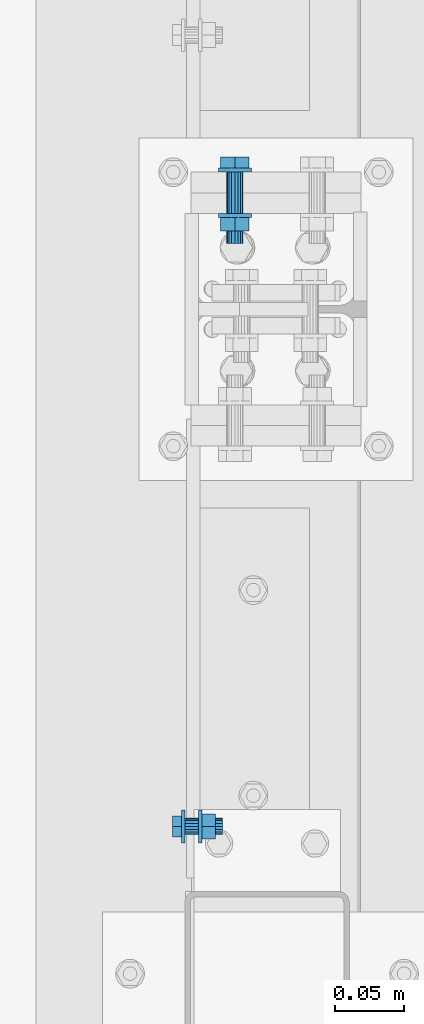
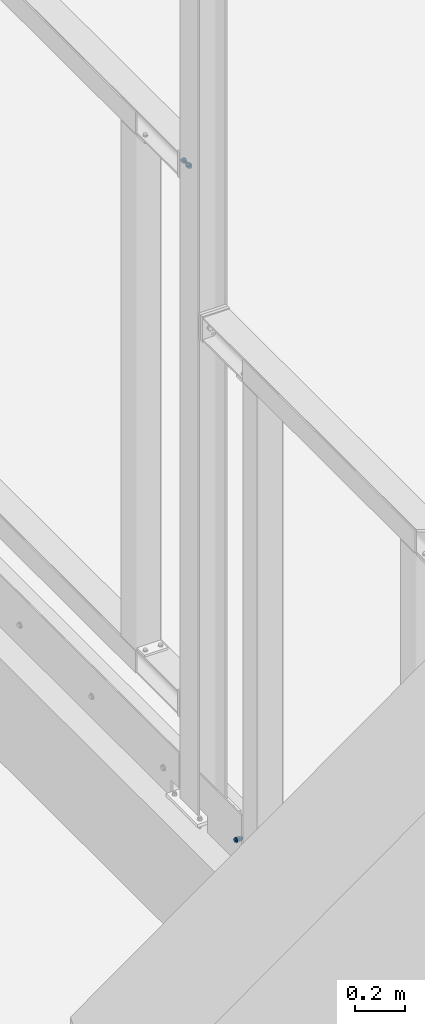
# One storey, part 284 of 476: 2 mechanical fasteners.
"""IFC2X3 building model written with IfcOpenShell, lengths in millimetres."""

import ifcopenshell
import ifcopenshell.guid

model = None  # the IFC model being written
_history = None  # IfcOwnerHistory: only IFC2X3 demands one
_inside = {}  # id of a spatial element -> (the spatial element, [elements in it])
_under = {}  # id of a project, library or spatial element -> (it, [spatial elements below it])
_declared = {}  # id of a project -> (the project, [libraries it declares])
_typed = {}  # id of a type object -> (the type object, [elements of that type])
_made_of = {}  # id of a material, layer set ... -> (it, [elements and type objects made of it])


def new_model(schema):
    """Start an empty IFC model of exactly this schema.

    Asked for "IFC4X3", IfcOpenShell would pick the latest addendum, in which some entities
    have other attributes; the version numbers below select the first issue.
    IFC2X3 requires an IfcOwnerHistory on every rooted entity: one is made here for all.
    """
    global model, _history
    if schema == "IFC4X3":
        model = ifcopenshell.file(schema_version=(4, 3, 0, 0))
    else:
        model = ifcopenshell.file(schema=schema)
    _inside.clear()
    _under.clear()
    _declared.clear()
    _typed.clear()
    _made_of.clear()
    _history = None
    if model.schema == "IFC2X3":
        org = make("IfcOrganization", Name="unknown")
        user = make(
            "IfcPersonAndOrganization",
            ThePerson=make("IfcPerson", FamilyName="unknown"),
            TheOrganization=org,
        )
        app = make(
            "IfcApplication",
            ApplicationDeveloper=org,
            Version="unknown",
            ApplicationFullName="unknown",
            ApplicationIdentifier="unknown",
        )
        _history = make(
            "IfcOwnerHistory",
            OwningUser=user,
            OwningApplication=app,
            ChangeAction="ADDED",
            CreationDate=0,
        )
    return model


def make(cls, **values):
    """One entity of the class cls with the attributes given. An attribute that is None is left unset."""
    return model.create_entity(
        cls, **{name: value for name, value in values.items() if value is not None}
    )


def entity(cls, *values):
    """Any entity or typed value of the class cls, its attributes in the order of the schema. None: left unset."""
    e = model.create_entity(cls)
    for i, value in enumerate(values):
        if value is not None:
            e[i] = value
    return e


def rooted(cls, **values):
    """An entity with a GlobalId (a new one), such as an element, a storey or a relation."""
    return make(cls, GlobalId=ifcopenshell.guid.new(), OwnerHistory=_history, **values)


def si_unit(unit_type, name, prefix=None):
    """IfcSIUnit, for example si_unit("LENGTHUNIT", "METRE", prefix="MILLI")."""
    return make("IfcSIUnit", UnitType=unit_type, Prefix=prefix, Name=name)


def converted_unit(unit_type, name, factor, base, dimensions=None, offset=None):
    """IfcConversionBasedUnit, such as the inch: factor (a typed value) times the base unit."""
    return make(
        "IfcConversionBasedUnit"
        if offset is None
        else "IfcConversionBasedUnitWithOffset",
        ConversionOffset=offset,
        Dimensions=None
        if dimensions is None
        else entity("IfcDimensionalExponents", *dimensions),
        UnitType=unit_type,
        Name=name,
        ConversionFactor=make(
            "IfcMeasureWithUnit", ValueComponent=factor, UnitComponent=base
        ),
    )


def assignment(units):
    """IfcUnitAssignment: the units of a project."""
    return None if units is None else make("IfcUnitAssignment", Units=units)


def point(xyz):
    """IfcCartesianPoint."""
    return None if xyz is None else make("IfcCartesianPoint", Coordinates=xyz)


def direction(xyz):
    """IfcDirection."""
    return None if xyz is None else make("IfcDirection", DirectionRatios=xyz)


def frame(location, z_axis=None, x_axis=None):
    """IfcAxis2Placement3D, a coordinate frame: its origin and axes. An axis left out is left unset."""
    return make(
        "IfcAxis2Placement3D",
        Location=point(location),
        Axis=direction(z_axis),
        RefDirection=direction(x_axis),
    )


def origin_with_axes():
    """The frame at (0, 0, 0) with the z axis (0, 0, 1) and the x axis (1, 0, 0) written out."""
    return frame((0.0, 0.0, 0.0), z_axis=(0.0, 0.0, 1.0), x_axis=(1.0, 0.0, 0.0))


def place(relative_to, where):
    """IfcLocalPlacement: puts the frame where relative to a parent placement (None: the world)."""
    return make(
        "IfcLocalPlacement", PlacementRelTo=relative_to, RelativePlacement=where
    )


def context(
    kind, dimensions, precision=None, world=None, true_north=None, identifier=None
):
    """IfcGeometricRepresentationContext, for example the 3D "Model" context."""
    return make(
        "IfcGeometricRepresentationContext",
        ContextIdentifier=identifier,
        ContextType=kind,
        CoordinateSpaceDimension=dimensions,
        Precision=precision,
        WorldCoordinateSystem=world,
        TrueNorth=true_north,
    )


def project(units=None, contexts=None):
    """IfcProject with its units and contexts."""
    return rooted(
        "IfcProject",
        Name="project",
        RepresentationContexts=contexts,
        UnitsInContext=assignment(units),
    )


def spatial(cls, under=None, at=None, **own):
    """A site, building, storey or space (cls), placed at a placement, below another one or the project."""
    s = rooted(cls, ObjectPlacement=at, **own)
    if under is not None:
        _under.setdefault(under.id(), (under, []))[1].append(s)
    return s


def faces_of(points, faces, orient=None, outer=None):
    """IfcFace entities. A face is a list of loops; a loop is a list of indices into points, from 0.

    orient and outer hold one flag for each loop. By default every Orientation is true, the
    first loop of a face is its IfcFaceOuterBound and the others are IfcFaceBound.
    """
    made = []
    for i, loops in enumerate(faces):
        bounds = []
        for j, loop in enumerate(loops):
            is_outer = j == 0 if outer is None else outer[i][j]
            bounds.append(
                make(
                    "IfcFaceOuterBound" if is_outer else "IfcFaceBound",
                    Bound=make("IfcPolyLoop", Polygon=[points[k] for k in loop]),
                    Orientation=True if orient is None else orient[i][j],
                )
            )
        made.append(make("IfcFace", Bounds=bounds))
    return made


def faceted_brep(points, faces, orient=None, outer=None, voids=None):
    """IfcFacetedBrep: a solid bounded by flat faces; with voids (closed shells), ...WithVoids."""
    shared = [point(p) for p in points]
    hull = make("IfcClosedShell", CfsFaces=faces_of(shared, faces, orient, outer))
    if voids is None:
        return make("IfcFacetedBrep", Outer=hull)
    return make(
        "IfcFacetedBrepWithVoids",
        Outer=hull,
        Voids=[
            make(cls, CfsFaces=faces_of(shared, fs, o, b)) for cls, fs, o, b in voids
        ],
    )


def shape(context_of_items, identifier, shape_type, items):
    """IfcShapeRepresentation: the items that make up one representation, for example the "Body"."""
    return make(
        "IfcShapeRepresentation",
        ContextOfItems=context_of_items,
        RepresentationIdentifier=identifier,
        RepresentationType=shape_type,
        Items=items,
    )


def made_of(thing, what):
    """Note that an element or type object is made of a material, layer set ...; save() writes the relation."""
    if what is not None:
        _made_of.setdefault(what.id(), (what, []))[1].append(thing)
    return thing


def element(
    cls,
    number,
    at=None,
    inside=None,
    cuts=None,
    type_object=None,
    material=None,
    context=None,
    identifier="Body",
    shape_type=None,
    held_by="IfcProductDefinitionShape",
    body=None,
    shapes=None,
    **own,
):
    """One element of the class cls, such as IfcWall. Its Tag is "e" and its number.

    at: its placement. inside: the storey or other place that contains it. cuts: it is an
    opening in that element (IfcRelVoidsElement). A single representation is given by context,
    identifier, shape_type and body (its items); several are given by shapes. held_by: the class
    of the entity that holds the representations. save() writes the other relations.
    """
    e = rooted(cls, Tag="e%d" % number, ObjectPlacement=at, **own)
    if body is not None:
        shapes = [shape(context, identifier, shape_type, body)]
    if shapes is not None:
        e.Representation = make(held_by, Representations=shapes)
    if inside is not None:
        _inside.setdefault(inside.id(), (inside, []))[1].append(e)
    if cuts is not None:
        rooted(
            "IfcRelVoidsElement", RelatingBuildingElement=cuts, RelatedOpeningElement=e
        )
    if type_object is not None:
        _typed.setdefault(type_object.id(), (type_object, []))[1].append(e)
    return made_of(e, material)


def aggregate(whole, parts):
    """IfcRelAggregates: a whole, such as a stair, and the parts it consists of."""
    return rooted("IfcRelAggregates", RelatingObject=whole, RelatedObjects=parts)


def save(model, path):
    """Write the relations noted so far, then the file.

    IfcRelAggregates (storeys below a building ...), IfcRelContainedInSpatialStructure (elements
    in a storey), IfcRelDefinesByType, IfcRelAssociatesMaterial and IfcRelDeclares: one each for
    every whole, place, type object, material and project.
    """
    for whole, parts in _under.values():
        aggregate(whole, parts)
    for where, things in _inside.values():
        rooted(
            "IfcRelContainedInSpatialStructure",
            RelatedElements=things,
            RelatingStructure=where,
        )
    for kind, things in _typed.values():
        rooted("IfcRelDefinesByType", RelatedObjects=things, RelatingType=kind)
    for what, things in _made_of.values():
        rooted("IfcRelAssociatesMaterial", RelatedObjects=things, RelatingMaterial=what)
    for by, libraries in _declared.values():
        rooted("IfcRelDeclares", RelatingContext=by, RelatedDefinitions=libraries)
    model.write(path)


model = new_model("IFC2X3")

# Units and contexts
model_context = context("Model", 3, precision=1e-09, world=origin_with_axes())
ifc_project = project(units=[si_unit("LENGTHUNIT", "METRE", prefix="MILLI"), si_unit("AREAUNIT", "SQUARE_METRE"), si_unit("VOLUMEUNIT", "CUBIC_METRE"), converted_unit("PLANEANGLEUNIT", "DEGREE", entity("IfcPlaneAngleMeasure", 0.01745329), si_unit("PLANEANGLEUNIT", "RADIAN"), dimensions=[0, 0, 0, 0, 0, 0, 0])], contexts=[model_context])

# Site, building, storey
site_placement = place(None, origin_with_axes())
site = spatial("IfcSite", under=ifc_project, at=site_placement, Name="mKR Teilneubau & Sanierung BA1 - Ostfildern", CompositionType="ELEMENT")
building_placement = place(site_placement, origin_with_axes())
building = spatial("IfcBuilding", under=site, at=building_placement, Name="Struktur 1", CompositionType="ELEMENT")
storey_placement = place(building_placement, origin_with_axes())
storey = spatial("IfcBuildingStorey", under=building, at=storey_placement, Name="Default Storey", CompositionType="ELEMENT", Elevation=0.0)

# Mechanical fasteners
mechanical_fastener_1_placement = place(None, origin_with_axes())
element("IfcMechanicalFastener", 1, at=mechanical_fastener_1_placement, inside=storey, ObjectType="Bolt#1", NominalDiameter=12.0, NominalLength=55.0, context=model_context, shape_type="Brep", body=[
    faceted_brep([(8147.608780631, -17302.67387897, 3597.0), (8147.608780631, -17305.67387897, 3597.0), (8147.378203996, -17305.67387897, 3594.658916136), (8147.378203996, -17302.67387897, 3594.658916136), (8146.695335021, -17305.67387897, 3592.407798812), (8146.695335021, -17302.67387897, 3592.407798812), (8145.586415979, -17305.67387897, 3590.333157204), (8145.586415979, -17302.67387897, 3590.333157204), (8144.094062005, -17305.67387897, 3588.514718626), (8144.094062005, -17302.67387897, 3588.514718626), (8142.275623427, -17305.67387897, 3587.022364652), (8142.275623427, -17302.67387897, 3587.022364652), (8140.20098182, -17305.67387897, 3585.91344561), (8140.20098182, -17302.67387897, 3585.91344561), (8137.949864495, -17305.67387897, 3585.230576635), (8137.949864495, -17302.67387897, 3585.230576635), (8135.608780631, -17305.67387897, 3585.0), (8135.608780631, -17302.67387897, 3585.0), (8133.267696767, -17305.67387897, 3585.230576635), (8133.267696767, -17302.67387897, 3585.230576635), (8131.016579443, -17305.67387897, 3585.91344561), (8131.016579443, -17302.67387897, 3585.91344561), (8128.941937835, -17305.67387897, 3587.022364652), (8128.941937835, -17302.67387897, 3587.022364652), (8127.123499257, -17305.67387897, 3588.514718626), (8127.123499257, -17302.67387897, 3588.514718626), (8125.631145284, -17305.67387897, 3590.333157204), (8125.631145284, -17302.67387897, 3590.333157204), (8124.522226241, -17305.67387897, 3592.407798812), (8124.522226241, -17302.67387897, 3592.407798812), (8123.839357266, -17305.67387897, 3594.658916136), (8123.839357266, -17302.67387897, 3594.658916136), (8123.608780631, -17305.67387897, 3597.0), (8123.608780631, -17302.67387897, 3597.0), (8123.839357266, -17305.67387897, 3599.341083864), (8123.839357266, -17302.67387897, 3599.341083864), (8124.522226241, -17305.67387897, 3601.592201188), (8124.522226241, -17302.67387897, 3601.592201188), (8125.631145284, -17305.67387897, 3603.666842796), (8125.631145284, -17302.67387897, 3603.666842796), (8127.123499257, -17305.67387897, 3605.485281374), (8127.123499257, -17302.67387897, 3605.485281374), (8128.941937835, -17305.67387897, 3606.977635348), (8128.941937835, -17302.67387897, 3606.977635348), (8131.016579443, -17305.67387897, 3608.08655439), (8131.016579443, -17302.67387897, 3608.08655439), (8133.267696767, -17305.67387897, 3608.769423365), (8133.267696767, -17302.67387897, 3608.769423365), (8135.608780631, -17305.67387897, 3609.0), (8135.608780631, -17302.67387897, 3609.0), (8137.949864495, -17305.67387897, 3608.769423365), (8137.949864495, -17302.67387897, 3608.769423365), (8140.20098182, -17305.67387897, 3608.08655439), (8140.20098182, -17302.67387897, 3608.08655439), (8142.275623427, -17305.67387897, 3606.977635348), (8142.275623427, -17302.67387897, 3606.977635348), (8144.094062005, -17305.67387897, 3605.485281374), (8144.094062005, -17302.67387897, 3605.485281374), (8145.586415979, -17305.67387897, 3603.666842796), (8145.586415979, -17302.67387897, 3603.666842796), (8146.695335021, -17305.67387897, 3601.592201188), (8146.695335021, -17302.67387897, 3601.592201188), (8147.378203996, -17305.67387897, 3599.341083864), (8147.378203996, -17302.67387897, 3599.341083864)], [[[0, 1, 2, 3]], [[3, 2, 4, 5]], [[5, 4, 6, 7]], [[7, 6, 8, 9]], [[9, 8, 10, 11]], [[11, 10, 12, 13]], [[13, 12, 14, 15]], [[15, 14, 16, 17]], [[17, 16, 18, 19]], [[19, 18, 20, 21]], [[21, 20, 22, 23]], [[23, 22, 24, 25]], [[25, 24, 26, 27]], [[27, 26, 28, 29]], [[29, 28, 30, 31]], [[31, 30, 32, 33]], [[33, 32, 34, 35]], [[35, 34, 36, 37]], [[37, 36, 38, 39]], [[39, 38, 40, 41]], [[41, 40, 42, 43]], [[43, 42, 44, 45]], [[45, 44, 46, 47]], [[47, 46, 48, 49]], [[49, 48, 50, 51]], [[51, 50, 52, 53]], [[53, 52, 54, 55]], [[55, 54, 56, 57]], [[57, 56, 58, 59]], [[59, 58, 60, 61]], [[61, 60, 62, 63]], [[63, 62, 1, 0]], [[0, 3, 5, 7, 9, 11, 13, 15, 17, 19, 21, 23, 25, 27, 29, 31, 33, 35, 37, 39, 41, 43, 45, 47, 49, 51, 53, 55, 57, 59, 61, 63]], [[1, 62, 60, 58, 56, 54, 52, 50, 48, 46, 44, 42, 40, 38, 36, 34, 32, 30, 28, 26, 24, 22, 20, 18, 16, 14, 12, 10, 8, 6, 4, 2]]]),
    faceted_brep([(8125.255446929, -17302.67387897, 3591.0225), (8125.255446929, -17294.67387897, 3591.0225), (8135.608780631, -17294.67387897, 3585.045), (8135.608780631, -17302.67387897, 3585.045), (8145.962114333, -17294.67387897, 3591.0225), (8145.962114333, -17302.67387897, 3591.0225), (8145.962114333, -17294.67387897, 3602.9775), (8145.962114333, -17302.67387897, 3602.9775), (8135.608780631, -17294.67387897, 3608.955), (8135.608780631, -17302.67387897, 3608.955), (8125.255446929, -17294.67387897, 3602.9775), (8125.255446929, -17302.67387897, 3602.9775)], [[[0, 1, 2, 3]], [[3, 2, 4, 5]], [[5, 4, 6, 7]], [[7, 6, 8, 9]], [[9, 8, 10, 11]], [[11, 10, 1, 0]], [[4, 2, 1, 10, 8, 6]], [[0, 3, 5, 7, 9, 11]]]),
    faceted_brep([(8141.608780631, -17305.67387897, 3597.0), (8141.608780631, -17335.67387897, 3597.0), (8141.152057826, -17335.67387897, 3594.703899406), (8141.152057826, -17305.67387897, 3594.703899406), (8139.851421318, -17335.67387897, 3592.757359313), (8139.851421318, -17305.67387897, 3592.757359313), (8137.904881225, -17335.67387897, 3591.456722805), (8137.904881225, -17305.67387897, 3591.456722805), (8135.608780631, -17335.67387897, 3591.0), (8135.608780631, -17305.67387897, 3591.0), (8133.312680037, -17335.67387897, 3591.456722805), (8133.312680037, -17305.67387897, 3591.456722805), (8131.366139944, -17335.67387897, 3592.757359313), (8131.366139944, -17305.67387897, 3592.757359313), (8130.065503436, -17335.67387897, 3594.703899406), (8130.065503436, -17305.67387897, 3594.703899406), (8129.608780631, -17335.67387897, 3597.0), (8129.608780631, -17305.67387897, 3597.0), (8130.065503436, -17335.67387897, 3599.296100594), (8130.065503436, -17305.67387897, 3599.296100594), (8131.366139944, -17335.67387897, 3601.242640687), (8131.366139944, -17305.67387897, 3601.242640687), (8133.312680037, -17335.67387897, 3602.543277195), (8133.312680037, -17305.67387897, 3602.543277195), (8135.608780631, -17335.67387897, 3603.0), (8135.608780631, -17305.67387897, 3603.0), (8137.904881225, -17335.67387897, 3602.543277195), (8137.904881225, -17305.67387897, 3602.543277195), (8139.851421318, -17335.67387897, 3601.242640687), (8139.851421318, -17305.67387897, 3601.242640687), (8141.152057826, -17335.67387897, 3599.296100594), (8141.152057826, -17305.67387897, 3599.296100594)], [[[0, 1, 2, 3]], [[3, 2, 4, 5]], [[5, 4, 6, 7]], [[7, 6, 8, 9]], [[9, 8, 10, 11]], [[11, 10, 12, 13]], [[13, 12, 14, 15]], [[15, 14, 16, 17]], [[17, 16, 18, 19]], [[19, 18, 20, 21]], [[21, 20, 22, 23]], [[23, 22, 24, 25]], [[25, 24, 26, 27]], [[27, 26, 28, 29]], [[29, 28, 30, 31]], [[31, 30, 1, 0]], [[0, 3, 5, 7, 9, 11, 13, 15, 17, 19, 21, 23, 25, 27, 29, 31]], [[1, 30, 28, 26, 24, 22, 20, 18, 16, 14, 12, 10, 8, 6, 4, 2]]]),
    faceted_brep([(8147.608780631, -17335.67387897, 3597.0), (8147.608780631, -17338.67387897, 3597.0), (8147.378203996, -17338.67387897, 3594.658916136), (8147.378203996, -17335.67387897, 3594.658916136), (8146.695335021, -17338.67387897, 3592.407798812), (8146.695335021, -17335.67387897, 3592.407798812), (8145.586415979, -17338.67387897, 3590.333157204), (8145.586415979, -17335.67387897, 3590.333157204), (8144.094062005, -17338.67387897, 3588.514718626), (8144.094062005, -17335.67387897, 3588.514718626), (8142.275623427, -17338.67387897, 3587.022364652), (8142.275623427, -17335.67387897, 3587.022364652), (8140.20098182, -17338.67387897, 3585.91344561), (8140.20098182, -17335.67387897, 3585.91344561), (8137.949864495, -17338.67387897, 3585.230576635), (8137.949864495, -17335.67387897, 3585.230576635), (8135.608780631, -17338.67387897, 3585.0), (8135.608780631, -17335.67387897, 3585.0), (8133.267696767, -17338.67387897, 3585.230576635), (8133.267696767, -17335.67387897, 3585.230576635), (8131.016579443, -17338.67387897, 3585.91344561), (8131.016579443, -17335.67387897, 3585.91344561), (8128.941937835, -17338.67387897, 3587.022364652), (8128.941937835, -17335.67387897, 3587.022364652), (8127.123499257, -17338.67387897, 3588.514718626), (8127.123499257, -17335.67387897, 3588.514718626), (8125.631145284, -17338.67387897, 3590.333157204), (8125.631145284, -17335.67387897, 3590.333157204), (8124.522226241, -17338.67387897, 3592.407798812), (8124.522226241, -17335.67387897, 3592.407798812), (8123.839357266, -17338.67387897, 3594.658916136), (8123.839357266, -17335.67387897, 3594.658916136), (8123.608780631, -17338.67387897, 3597.0), (8123.608780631, -17335.67387897, 3597.0), (8123.839357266, -17338.67387897, 3599.341083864), (8123.839357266, -17335.67387897, 3599.341083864), (8124.522226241, -17338.67387897, 3601.592201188), (8124.522226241, -17335.67387897, 3601.592201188), (8125.631145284, -17338.67387897, 3603.666842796), (8125.631145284, -17335.67387897, 3603.666842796), (8127.123499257, -17338.67387897, 3605.485281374), (8127.123499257, -17335.67387897, 3605.485281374), (8128.941937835, -17338.67387897, 3606.977635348), (8128.941937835, -17335.67387897, 3606.977635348), (8131.016579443, -17338.67387897, 3608.08655439), (8131.016579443, -17335.67387897, 3608.08655439), (8133.267696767, -17338.67387897, 3608.769423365), (8133.267696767, -17335.67387897, 3608.769423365), (8135.608780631, -17338.67387897, 3609.0), (8135.608780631, -17335.67387897, 3609.0), (8137.949864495, -17338.67387897, 3608.769423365), (8137.949864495, -17335.67387897, 3608.769423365), (8140.20098182, -17338.67387897, 3608.08655439), (8140.20098182, -17335.67387897, 3608.08655439), (8142.275623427, -17338.67387897, 3606.977635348), (8142.275623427, -17335.67387897, 3606.977635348), (8144.094062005, -17338.67387897, 3605.485281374), (8144.094062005, -17335.67387897, 3605.485281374), (8145.586415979, -17338.67387897, 3603.666842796), (8145.586415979, -17335.67387897, 3603.666842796), (8146.695335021, -17338.67387897, 3601.592201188), (8146.695335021, -17335.67387897, 3601.592201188), (8147.378203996, -17338.67387897, 3599.341083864), (8147.378203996, -17335.67387897, 3599.341083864)], [[[0, 1, 2, 3]], [[3, 2, 4, 5]], [[5, 4, 6, 7]], [[7, 6, 8, 9]], [[9, 8, 10, 11]], [[11, 10, 12, 13]], [[13, 12, 14, 15]], [[15, 14, 16, 17]], [[17, 16, 18, 19]], [[19, 18, 20, 21]], [[21, 20, 22, 23]], [[23, 22, 24, 25]], [[25, 24, 26, 27]], [[27, 26, 28, 29]], [[29, 28, 30, 31]], [[31, 30, 32, 33]], [[33, 32, 34, 35]], [[35, 34, 36, 37]], [[37, 36, 38, 39]], [[39, 38, 40, 41]], [[41, 40, 42, 43]], [[43, 42, 44, 45]], [[45, 44, 46, 47]], [[47, 46, 48, 49]], [[49, 48, 50, 51]], [[51, 50, 52, 53]], [[53, 52, 54, 55]], [[55, 54, 56, 57]], [[57, 56, 58, 59]], [[59, 58, 60, 61]], [[61, 60, 62, 63]], [[63, 62, 1, 0]], [[0, 3, 5, 7, 9, 11, 13, 15, 17, 19, 21, 23, 25, 27, 29, 31, 33, 35, 37, 39, 41, 43, 45, 47, 49, 51, 53, 55, 57, 59, 61, 63]], [[1, 62, 60, 58, 56, 54, 52, 50, 48, 46, 44, 42, 40, 38, 36, 34, 32, 30, 28, 26, 24, 22, 20, 18, 16, 14, 12, 10, 8, 6, 4, 2]]]),
    faceted_brep([(8125.216475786, -17348.67387897, 3591.0), (8125.216475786, -17338.67387897, 3591.0), (8135.608780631, -17338.67387897, 3585.0), (8135.608780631, -17348.67387897, 3585.0), (8146.001085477, -17338.67387897, 3591.0), (8146.001085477, -17348.67387897, 3591.0), (8146.001085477, -17338.67387897, 3603.0), (8146.001085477, -17348.67387897, 3603.0), (8135.608780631, -17338.67387897, 3609.0), (8135.608780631, -17348.67387897, 3609.0), (8125.216475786, -17338.67387897, 3603.0), (8125.216475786, -17348.67387897, 3603.0)], [[[0, 1, 2, 3]], [[3, 2, 4, 5]], [[5, 4, 6, 7]], [[7, 6, 8, 9]], [[9, 8, 10, 11]], [[11, 10, 1, 0]], [[4, 2, 1, 10, 8, 6]], [[0, 3, 5, 7, 9, 11]]]),
    faceted_brep([(8141.608780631, -17348.67387897, 3597.0), (8141.608780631, -17357.67387897, 3597.0), (8141.152057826, -17357.67387897, 3594.703899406), (8141.152057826, -17348.67387897, 3594.703899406), (8139.851421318, -17357.67387897, 3592.757359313), (8139.851421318, -17348.67387897, 3592.757359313), (8137.904881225, -17357.67387897, 3591.456722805), (8137.904881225, -17348.67387897, 3591.456722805), (8135.608780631, -17357.67387897, 3591.0), (8135.608780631, -17348.67387897, 3591.0), (8133.312680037, -17357.67387897, 3591.456722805), (8133.312680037, -17348.67387897, 3591.456722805), (8131.366139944, -17357.67387897, 3592.757359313), (8131.366139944, -17348.67387897, 3592.757359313), (8130.065503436, -17357.67387897, 3594.703899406), (8130.065503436, -17348.67387897, 3594.703899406), (8129.608780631, -17357.67387897, 3597.0), (8129.608780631, -17348.67387897, 3597.0), (8130.065503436, -17357.67387897, 3599.296100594), (8130.065503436, -17348.67387897, 3599.296100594), (8131.366139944, -17357.67387897, 3601.242640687), (8131.366139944, -17348.67387897, 3601.242640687), (8133.312680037, -17357.67387897, 3602.543277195), (8133.312680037, -17348.67387897, 3602.543277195), (8135.608780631, -17357.67387897, 3603.0), (8135.608780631, -17348.67387897, 3603.0), (8137.904881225, -17357.67387897, 3602.543277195), (8137.904881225, -17348.67387897, 3602.543277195), (8139.851421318, -17357.67387897, 3601.242640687), (8139.851421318, -17348.67387897, 3601.242640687), (8141.152057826, -17357.67387897, 3599.296100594), (8141.152057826, -17348.67387897, 3599.296100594)], [[[0, 1, 2, 3]], [[3, 2, 4, 5]], [[5, 4, 6, 7]], [[7, 6, 8, 9]], [[9, 8, 10, 11]], [[11, 10, 12, 13]], [[13, 12, 14, 15]], [[15, 14, 16, 17]], [[17, 16, 18, 19]], [[19, 18, 20, 21]], [[21, 20, 22, 23]], [[23, 22, 24, 25]], [[25, 24, 26, 27]], [[27, 26, 28, 29]], [[29, 28, 30, 31]], [[31, 30, 1, 0]], [[0, 3, 5, 7, 9, 11, 13, 15, 17, 19, 21, 23, 25, 27, 29, 31]], [[1, 30, 28, 26, 24, 22, 20, 18, 16, 14, 12, 10, 8, 6, 4, 2]]]),
])
mechanical_fastener_2_placement = place(None, origin_with_axes())
element("IfcMechanicalFastener", 2, at=mechanical_fastener_2_placement, inside=storey, ObjectType="-", NominalDiameter=12.0, NominalLength=30.0, context=model_context, shape_type="Brep", body=[
    faceted_brep([(8096.608764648, -17771.172956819, 608.0), (8099.108764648, -17771.172956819, 608.0), (8099.108764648, -17771.403533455, 605.658916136), (8096.608764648, -17771.403533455, 605.658916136), (8099.108764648, -17772.086402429, 603.407798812), (8096.608764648, -17772.086402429, 603.407798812), (8099.108764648, -17773.195321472, 601.333157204), (8096.608764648, -17773.195321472, 601.333157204), (8099.108764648, -17774.687675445, 599.514718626), (8096.608764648, -17774.687675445, 599.514718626), (8099.108764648, -17776.506114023, 598.022364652), (8096.608764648, -17776.506114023, 598.022364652), (8099.108764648, -17778.580755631, 596.91344561), (8096.608764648, -17778.580755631, 596.91344561), (8099.108764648, -17780.831872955, 596.230576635), (8096.608764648, -17780.831872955, 596.230576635), (8099.108764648, -17783.172956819, 596.0), (8096.608764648, -17783.172956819, 596.0), (8099.108764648, -17785.514040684, 596.230576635), (8096.608764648, -17785.514040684, 596.230576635), (8099.108764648, -17787.765158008, 596.91344561), (8096.608764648, -17787.765158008, 596.91344561), (8099.108764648, -17789.839799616, 598.022364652), (8096.608764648, -17789.839799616, 598.022364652), (8099.108764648, -17791.658238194, 599.514718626), (8096.608764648, -17791.658238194, 599.514718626), (8099.108764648, -17793.150592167, 601.333157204), (8096.608764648, -17793.150592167, 601.333157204), (8099.108764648, -17794.259511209, 603.407798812), (8096.608764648, -17794.259511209, 603.407798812), (8099.108764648, -17794.942380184, 605.658916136), (8096.608764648, -17794.942380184, 605.658916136), (8099.108764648, -17795.172956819, 608.0), (8096.608764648, -17795.172956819, 608.0), (8099.108764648, -17794.942380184, 610.341083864), (8096.608764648, -17794.942380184, 610.341083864), (8099.108764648, -17794.259511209, 612.592201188), (8096.608764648, -17794.259511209, 612.592201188), (8099.108764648, -17793.150592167, 614.666842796), (8096.608764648, -17793.150592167, 614.666842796), (8099.108764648, -17791.658238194, 616.485281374), (8096.608764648, -17791.658238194, 616.485281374), (8099.108764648, -17789.839799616, 617.977635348), (8096.608764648, -17789.839799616, 617.977635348), (8099.108764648, -17787.765158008, 619.08655439), (8096.608764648, -17787.765158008, 619.08655439), (8099.108764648, -17785.514040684, 619.769423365), (8096.608764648, -17785.514040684, 619.769423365), (8099.108764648, -17783.172956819, 620.0), (8096.608764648, -17783.172956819, 620.0), (8099.108764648, -17780.831872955, 619.769423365), (8096.608764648, -17780.831872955, 619.769423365), (8099.108764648, -17778.580755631, 619.08655439), (8096.608764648, -17778.580755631, 619.08655439), (8099.108764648, -17776.506114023, 617.977635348), (8096.608764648, -17776.506114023, 617.977635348), (8099.108764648, -17774.687675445, 616.485281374), (8096.608764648, -17774.687675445, 616.485281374), (8099.108764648, -17773.195321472, 614.666842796), (8096.608764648, -17773.195321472, 614.666842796), (8099.108764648, -17772.086402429, 612.592201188), (8096.608764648, -17772.086402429, 612.592201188), (8099.108764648, -17771.403533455, 610.341083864), (8096.608764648, -17771.403533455, 610.341083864)], [[[0, 1, 2, 3]], [[3, 2, 4, 5]], [[5, 4, 6, 7]], [[7, 6, 8, 9]], [[9, 8, 10, 11]], [[11, 10, 12, 13]], [[13, 12, 14, 15]], [[15, 14, 16, 17]], [[17, 16, 18, 19]], [[19, 18, 20, 21]], [[21, 20, 22, 23]], [[23, 22, 24, 25]], [[25, 24, 26, 27]], [[27, 26, 28, 29]], [[29, 28, 30, 31]], [[31, 30, 32, 33]], [[33, 32, 34, 35]], [[35, 34, 36, 37]], [[37, 36, 38, 39]], [[39, 38, 40, 41]], [[41, 40, 42, 43]], [[43, 42, 44, 45]], [[45, 44, 46, 47]], [[47, 46, 48, 49]], [[49, 48, 50, 51]], [[51, 50, 52, 53]], [[53, 52, 54, 55]], [[55, 54, 56, 57]], [[57, 56, 58, 59]], [[59, 58, 60, 61]], [[61, 60, 62, 63]], [[63, 62, 1, 0]], [[0, 3, 5, 7, 9, 11, 13, 15, 17, 19, 21, 23, 25, 27, 29, 31, 33, 35, 37, 39, 41, 43, 45, 47, 49, 51, 53, 55, 57, 59, 61, 63]], [[1, 62, 60, 58, 56, 54, 52, 50, 48, 46, 44, 42, 40, 38, 36, 34, 32, 30, 28, 26, 24, 22, 20, 18, 16, 14, 12, 10, 8, 6, 4, 2]]]),
    faceted_brep([(8096.608764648, -17790.867592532, 603.5575), (8090.208764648, -17790.867592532, 603.5575), (8090.208764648, -17783.172956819, 599.115), (8096.608764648, -17783.172956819, 599.115), (8090.208764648, -17775.478321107, 603.5575), (8096.608764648, -17775.478321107, 603.5575), (8090.208764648, -17775.478321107, 612.4425), (8096.608764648, -17775.478321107, 612.4425), (8090.208764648, -17783.172956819, 616.885), (8096.608764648, -17783.172956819, 616.885), (8090.208764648, -17790.867592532, 612.4425), (8096.608764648, -17790.867592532, 612.4425)], [[[0, 1, 2, 3]], [[3, 2, 4, 5]], [[5, 4, 6, 7]], [[7, 6, 8, 9]], [[9, 8, 10, 11]], [[11, 10, 1, 0]], [[4, 2, 1, 10, 8, 6]], [[0, 3, 5, 7, 9, 11]]]),
    faceted_brep([(8099.108764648, -17777.172956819, 608.0), (8109.108764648, -17777.172956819, 608.0), (8109.108764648, -17777.629679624, 605.703899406), (8099.108764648, -17777.629679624, 605.703899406), (8109.108764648, -17778.930316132, 603.757359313), (8099.108764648, -17778.930316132, 603.757359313), (8109.108764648, -17780.876856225, 602.456722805), (8099.108764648, -17780.876856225, 602.456722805), (8109.108764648, -17783.172956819, 602.0), (8099.108764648, -17783.172956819, 602.0), (8109.108764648, -17785.469057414, 602.456722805), (8099.108764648, -17785.469057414, 602.456722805), (8109.108764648, -17787.415597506, 603.757359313), (8099.108764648, -17787.415597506, 603.757359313), (8109.108764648, -17788.716234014, 605.703899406), (8099.108764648, -17788.716234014, 605.703899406), (8109.108764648, -17789.172956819, 608.0), (8099.108764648, -17789.172956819, 608.0), (8109.108764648, -17788.716234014, 610.296100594), (8099.108764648, -17788.716234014, 610.296100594), (8109.108764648, -17787.415597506, 612.242640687), (8099.108764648, -17787.415597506, 612.242640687), (8109.108764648, -17785.469057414, 613.543277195), (8099.108764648, -17785.469057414, 613.543277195), (8109.108764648, -17783.172956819, 614.0), (8099.108764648, -17783.172956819, 614.0), (8109.108764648, -17780.876856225, 613.543277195), (8099.108764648, -17780.876856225, 613.543277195), (8109.108764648, -17778.930316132, 612.242640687), (8099.108764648, -17778.930316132, 612.242640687), (8109.108764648, -17777.629679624, 610.296100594), (8099.108764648, -17777.629679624, 610.296100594)], [[[0, 1, 2, 3]], [[3, 2, 4, 5]], [[5, 4, 6, 7]], [[7, 6, 8, 9]], [[9, 8, 10, 11]], [[11, 10, 12, 13]], [[13, 12, 14, 15]], [[15, 14, 16, 17]], [[17, 16, 18, 19]], [[19, 18, 20, 21]], [[21, 20, 22, 23]], [[23, 22, 24, 25]], [[25, 24, 26, 27]], [[27, 26, 28, 29]], [[29, 28, 30, 31]], [[31, 30, 1, 0]], [[0, 3, 5, 7, 9, 11, 13, 15, 17, 19, 21, 23, 25, 27, 29, 31]], [[1, 30, 28, 26, 24, 22, 20, 18, 16, 14, 12, 10, 8, 6, 4, 2]]]),
    faceted_brep([(8109.108764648, -17771.172956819, 608.0), (8111.608764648, -17771.172956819, 608.0), (8111.608764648, -17771.403533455, 605.658916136), (8109.108764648, -17771.403533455, 605.658916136), (8111.608764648, -17772.086402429, 603.407798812), (8109.108764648, -17772.086402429, 603.407798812), (8111.608764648, -17773.195321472, 601.333157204), (8109.108764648, -17773.195321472, 601.333157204), (8111.608764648, -17774.687675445, 599.514718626), (8109.108764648, -17774.687675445, 599.514718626), (8111.608764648, -17776.506114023, 598.022364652), (8109.108764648, -17776.506114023, 598.022364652), (8111.608764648, -17778.580755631, 596.91344561), (8109.108764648, -17778.580755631, 596.91344561), (8111.608764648, -17780.831872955, 596.230576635), (8109.108764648, -17780.831872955, 596.230576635), (8111.608764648, -17783.172956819, 596.0), (8109.108764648, -17783.172956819, 596.0), (8111.608764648, -17785.514040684, 596.230576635), (8109.108764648, -17785.514040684, 596.230576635), (8111.608764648, -17787.765158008, 596.91344561), (8109.108764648, -17787.765158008, 596.91344561), (8111.608764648, -17789.839799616, 598.022364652), (8109.108764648, -17789.839799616, 598.022364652), (8111.608764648, -17791.658238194, 599.514718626), (8109.108764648, -17791.658238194, 599.514718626), (8111.608764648, -17793.150592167, 601.333157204), (8109.108764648, -17793.150592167, 601.333157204), (8111.608764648, -17794.259511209, 603.407798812), (8109.108764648, -17794.259511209, 603.407798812), (8111.608764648, -17794.942380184, 605.658916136), (8109.108764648, -17794.942380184, 605.658916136), (8111.608764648, -17795.172956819, 608.0), (8109.108764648, -17795.172956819, 608.0), (8111.608764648, -17794.942380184, 610.341083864), (8109.108764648, -17794.942380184, 610.341083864), (8111.608764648, -17794.259511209, 612.592201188), (8109.108764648, -17794.259511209, 612.592201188), (8111.608764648, -17793.150592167, 614.666842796), (8109.108764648, -17793.150592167, 614.666842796), (8111.608764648, -17791.658238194, 616.485281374), (8109.108764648, -17791.658238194, 616.485281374), (8111.608764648, -17789.839799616, 617.977635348), (8109.108764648, -17789.839799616, 617.977635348), (8111.608764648, -17787.765158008, 619.08655439), (8109.108764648, -17787.765158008, 619.08655439), (8111.608764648, -17785.514040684, 619.769423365), (8109.108764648, -17785.514040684, 619.769423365), (8111.608764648, -17783.172956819, 620.0), (8109.108764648, -17783.172956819, 620.0), (8111.608764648, -17780.831872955, 619.769423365), (8109.108764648, -17780.831872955, 619.769423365), (8111.608764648, -17778.580755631, 619.08655439), (8109.108764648, -17778.580755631, 619.08655439), (8111.608764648, -17776.506114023, 617.977635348), (8109.108764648, -17776.506114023, 617.977635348), (8111.608764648, -17774.687675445, 616.485281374), (8109.108764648, -17774.687675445, 616.485281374), (8111.608764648, -17773.195321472, 614.666842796), (8109.108764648, -17773.195321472, 614.666842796), (8111.608764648, -17772.086402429, 612.592201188), (8109.108764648, -17772.086402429, 612.592201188), (8111.608764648, -17771.403533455, 610.341083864), (8109.108764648, -17771.403533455, 610.341083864)], [[[0, 1, 2, 3]], [[3, 2, 4, 5]], [[5, 4, 6, 7]], [[7, 6, 8, 9]], [[9, 8, 10, 11]], [[11, 10, 12, 13]], [[13, 12, 14, 15]], [[15, 14, 16, 17]], [[17, 16, 18, 19]], [[19, 18, 20, 21]], [[21, 20, 22, 23]], [[23, 22, 24, 25]], [[25, 24, 26, 27]], [[27, 26, 28, 29]], [[29, 28, 30, 31]], [[31, 30, 32, 33]], [[33, 32, 34, 35]], [[35, 34, 36, 37]], [[37, 36, 38, 39]], [[39, 38, 40, 41]], [[41, 40, 42, 43]], [[43, 42, 44, 45]], [[45, 44, 46, 47]], [[47, 46, 48, 49]], [[49, 48, 50, 51]], [[51, 50, 52, 53]], [[53, 52, 54, 55]], [[55, 54, 56, 57]], [[57, 56, 58, 59]], [[59, 58, 60, 61]], [[61, 60, 62, 63]], [[63, 62, 1, 0]], [[0, 3, 5, 7, 9, 11, 13, 15, 17, 19, 21, 23, 25, 27, 29, 31, 33, 35, 37, 39, 41, 43, 45, 47, 49, 51, 53, 55, 57, 59, 61, 63]], [[1, 62, 60, 58, 56, 54, 52, 50, 48, 46, 44, 42, 40, 38, 36, 34, 32, 30, 28, 26, 24, 22, 20, 18, 16, 14, 12, 10, 8, 6, 4, 2]]]),
    faceted_brep([(8121.608764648, -17792.309524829, 602.725), (8111.608764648, -17792.309524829, 602.725), (8111.608764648, -17783.172956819, 597.45), (8121.608764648, -17783.172956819, 597.45), (8111.608764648, -17774.036388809, 602.725), (8121.608764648, -17774.036388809, 602.725), (8111.608764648, -17774.036388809, 613.275), (8121.608764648, -17774.036388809, 613.275), (8111.608764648, -17783.172956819, 618.55), (8121.608764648, -17783.172956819, 618.55), (8111.608764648, -17792.309524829, 613.275), (8121.608764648, -17792.309524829, 613.275)], [[[0, 1, 2, 3]], [[3, 2, 4, 5]], [[5, 4, 6, 7]], [[7, 6, 8, 9]], [[9, 8, 10, 11]], [[11, 10, 1, 0]], [[4, 2, 1, 10, 8, 6]], [[0, 3, 5, 7, 9, 11]]]),
    faceted_brep([(8121.608764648, -17777.172956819, 608.0), (8126.608764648, -17777.172956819, 608.0), (8126.608764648, -17777.629679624, 605.703899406), (8121.608764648, -17777.629679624, 605.703899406), (8126.608764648, -17778.930316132, 603.757359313), (8121.608764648, -17778.930316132, 603.757359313), (8126.608764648, -17780.876856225, 602.456722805), (8121.608764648, -17780.876856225, 602.456722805), (8126.608764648, -17783.172956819, 602.0), (8121.608764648, -17783.172956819, 602.0), (8126.608764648, -17785.469057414, 602.456722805), (8121.608764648, -17785.469057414, 602.456722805), (8126.608764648, -17787.415597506, 603.757359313), (8121.608764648, -17787.415597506, 603.757359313), (8126.608764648, -17788.716234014, 605.703899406), (8121.608764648, -17788.716234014, 605.703899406), (8126.608764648, -17789.172956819, 608.0), (8121.608764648, -17789.172956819, 608.0), (8126.608764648, -17788.716234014, 610.296100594), (8121.608764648, -17788.716234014, 610.296100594), (8126.608764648, -17787.415597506, 612.242640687), (8121.608764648, -17787.415597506, 612.242640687), (8126.608764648, -17785.469057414, 613.543277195), (8121.608764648, -17785.469057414, 613.543277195), (8126.608764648, -17783.172956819, 614.0), (8121.608764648, -17783.172956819, 614.0), (8126.608764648, -17780.876856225, 613.543277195), (8121.608764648, -17780.876856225, 613.543277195), (8126.608764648, -17778.930316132, 612.242640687), (8121.608764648, -17778.930316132, 612.242640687), (8126.608764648, -17777.629679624, 610.296100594), (8121.608764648, -17777.629679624, 610.296100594)], [[[0, 1, 2, 3]], [[3, 2, 4, 5]], [[5, 4, 6, 7]], [[7, 6, 8, 9]], [[9, 8, 10, 11]], [[11, 10, 12, 13]], [[13, 12, 14, 15]], [[15, 14, 16, 17]], [[17, 16, 18, 19]], [[19, 18, 20, 21]], [[21, 20, 22, 23]], [[23, 22, 24, 25]], [[25, 24, 26, 27]], [[27, 26, 28, 29]], [[29, 28, 30, 31]], [[31, 30, 1, 0]], [[0, 3, 5, 7, 9, 11, 13, 15, 17, 19, 21, 23, 25, 27, 29, 31]], [[1, 30, 28, 26, 24, 22, 20, 18, 16, 14, 12, 10, 8, 6, 4, 2]]]),
])

save(model, "model.ifc")
